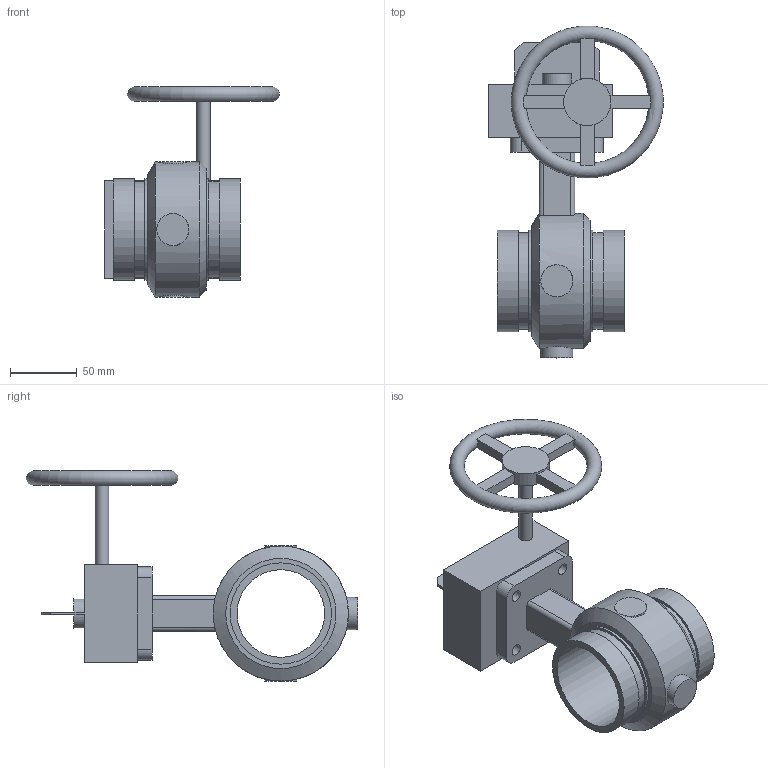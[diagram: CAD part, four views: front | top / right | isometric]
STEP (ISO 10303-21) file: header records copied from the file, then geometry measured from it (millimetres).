
FILE_DESCRIPTION(/* description */ ('VIC FP VALVE BUTTERFLY HP SERIES 766 (OGS)'),/* implementation_level */ '2;1');
FILE_NAME(/* name */ 'C:\Files for Export\766\Victaulic_EU_FP_Vlv Btfl HP_Series 766 (OGS)\Victaulic_EU_FP_Vlv Btfl HP_Series 766 (OGS)_02.5 (76.1) (65).stp',/* time_stamp */ '2024-06-27T12:46:21+02:00',/* author */ ('cps_temp'),/* organization */ ('Victaulic'),/* preprocessor_version */ 'ST-DEVELOPER v18.1',/* originating_system */ 'Autodesk Inventor 2020',/* authorisation */ '');
FILE_SCHEMA (('AUTOMOTIVE_DESIGN { 1 0 10303 214 3 1 1 }'));
Length unit declared in the file: inch
Products named in the file (1): 766-02.5 (76.1)
Bounding box: 131.32 x 249.39 x 157.99 mm (x, y, z)
Volume: 662511.6 mm3; surface area: 119413.4 mm2
Topology: 1 solids, 2 shells, 93 faces, 239 edges, 162 vertices
Faces by surface type: plane 59, cylinder 31, cone 2, torus 1
Full cylindrical faces by diameter (mm): 8.128 x1, 8.636 x4, 10.16 x1, 24.13 x1, 35.56 x1, 55.118 x1, 65.888 x1, 72.263 x2, 76.2 x4, 101.6 x1
Entity records: 3299 total; most frequent: CARTESIAN_POINT 780, DIRECTION 499, ORIENTED_EDGE 478, EDGE_CURVE 239, AXIS2_PLACEMENT_3D 193, VERTEX_POINT 162, EDGE_LOOP 117, LINE 113
